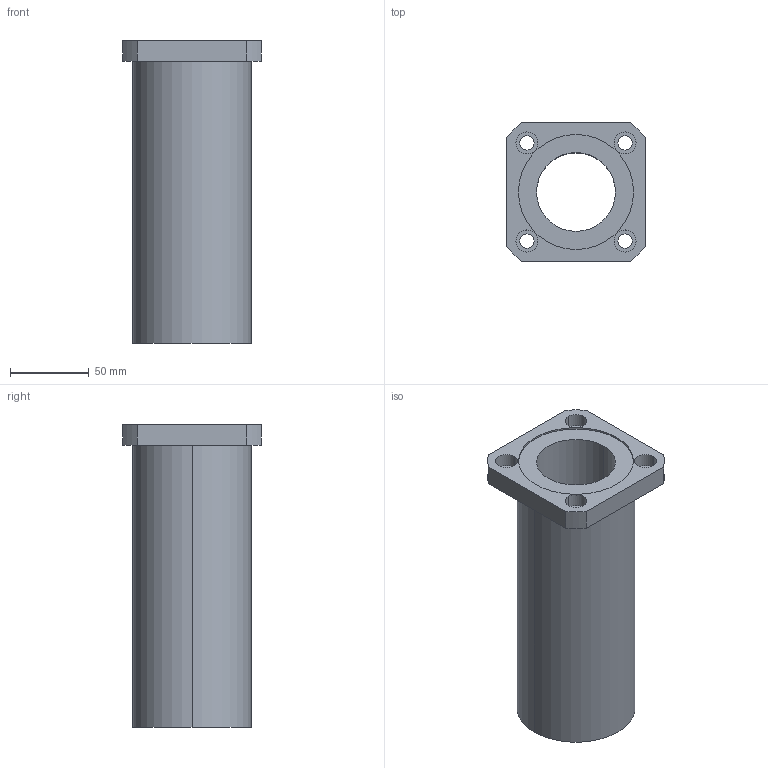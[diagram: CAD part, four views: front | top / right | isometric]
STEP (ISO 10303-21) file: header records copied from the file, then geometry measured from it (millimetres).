
FILE_DESCRIPTION((''),'2;1');
FILE_NAME('C:\Documents and Settings\ｿﾀﾀ蠑ｷ1\ｹﾙﾅﾁ ﾈｭｸ饅\ｺﾎﾇｰﾆﾄﾀﾏ\ﾁｦﾇｰ\LMEK__LUU\LMEK50LUU.stp','2005-06-15T11:02:48',('ｿﾀﾀ蠑ｷ1'),(''),'Autodesk Inventor 9','Autodesk Inventor 9','');
FILE_SCHEMA(('AUTOMOTIVE_DESIGN { 1 0 10303 214 1 1 1 1 }'));
Length unit declared in the file: millimetre
Products named in the file (1): LMEK__(L)
Bounding box: 88 x 88 x 192 mm (x, y, z)
Volume: 501523.2 mm3; surface area: 89512 mm2
Topology: 1 solids, 1 shells, 41 faces, 96 edges, 64 vertices
Faces by surface type: bspline 20, cylinder 12, plane 9
Entity records: 1457 total; most frequent: CARTESIAN_POINT 486, DIRECTION 196, ORIENTED_EDGE 192, EDGE_CURVE 96, AXIS2_PLACEMENT_3D 78, VERTEX_POINT 64, EDGE_LOOP 58, CIRCLE 56
